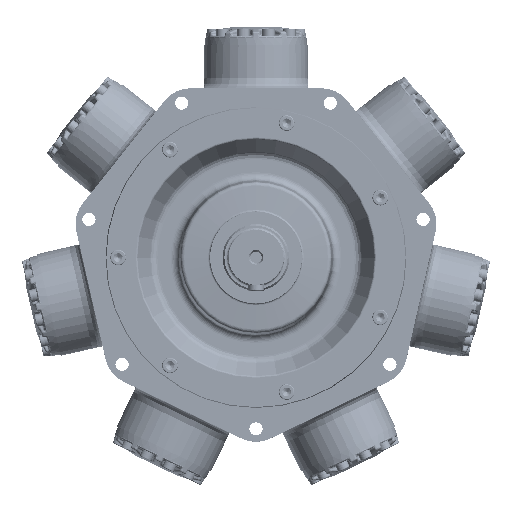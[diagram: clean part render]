
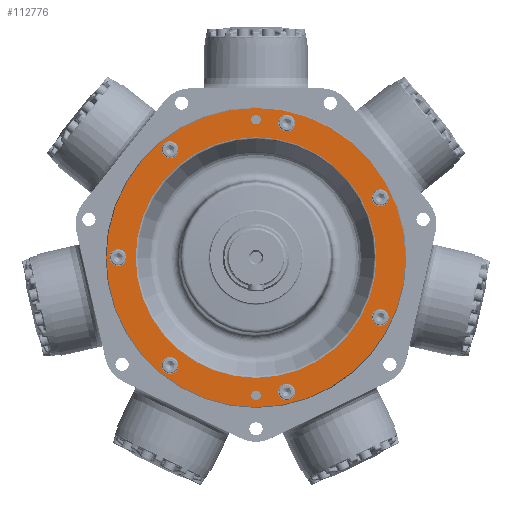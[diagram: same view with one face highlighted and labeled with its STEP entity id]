
A CAD part, top view. The second image highlights one B-rep face of the part: STEP entity #112776.
In plain terms, the highlighted planar face has unit normal (0, 0, 1).
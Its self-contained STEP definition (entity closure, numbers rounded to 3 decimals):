
#931=FACE_BOUND('',#32256,.T.);
#932=FACE_BOUND('',#32257,.T.);
#933=FACE_BOUND('',#32258,.T.);
#934=FACE_BOUND('',#32259,.T.);
#935=FACE_BOUND('',#32260,.T.);
#936=FACE_BOUND('',#32261,.T.);
#937=FACE_BOUND('',#32262,.T.);
#938=FACE_BOUND('',#32263,.T.);
#939=FACE_BOUND('',#32264,.T.);
#940=FACE_BOUND('',#32265,.T.);
#16122=PLANE('',#120756);
#19773=CIRCLE('',#120729,7.176);
#19775=CIRCLE('',#120732,7.176);
#19777=CIRCLE('',#120735,12.7);
#19779=CIRCLE('',#120738,12.7);
#19780=CIRCLE('',#120740,12.7);
#19782=CIRCLE('',#120743,12.7);
#19783=CIRCLE('',#120745,12.7);
#19784=CIRCLE('',#120747,12.7);
#19786=CIRCLE('',#120750,12.7);
#19787=CIRCLE('',#120752,227.279);
#19790=CIRCLE('',#120757,182.808);
#25352=FACE_OUTER_BOUND('',#32255,.T.);
#32255=EDGE_LOOP('',(#87826));
#32256=EDGE_LOOP('',(#87827));
#32257=EDGE_LOOP('',(#87828));
#32258=EDGE_LOOP('',(#87829));
#32259=EDGE_LOOP('',(#87830));
#32260=EDGE_LOOP('',(#87831));
#32261=EDGE_LOOP('',(#87832));
#32262=EDGE_LOOP('',(#87833));
#32263=EDGE_LOOP('',(#87834));
#32264=EDGE_LOOP('',(#87835));
#32265=EDGE_LOOP('',(#87836));
#46651=VERTEX_POINT('',#264257);
#46653=VERTEX_POINT('',#264263);
#46655=VERTEX_POINT('',#264269);
#46657=VERTEX_POINT('',#264275);
#46658=VERTEX_POINT('',#264279);
#46660=VERTEX_POINT('',#264285);
#46661=VERTEX_POINT('',#264289);
#46662=VERTEX_POINT('',#264293);
#46664=VERTEX_POINT('',#264299);
#46665=VERTEX_POINT('',#264303);
#46668=VERTEX_POINT('',#264313);
#60910=EDGE_CURVE('',#46651,#46651,#19773,.T.);
#60913=EDGE_CURVE('',#46653,#46653,#19775,.T.);
#60917=EDGE_CURVE('',#46655,#46655,#19777,.T.);
#60920=EDGE_CURVE('',#46657,#46657,#19779,.T.);
#60922=EDGE_CURVE('',#46658,#46658,#19780,.T.);
#60925=EDGE_CURVE('',#46660,#46660,#19782,.T.);
#60927=EDGE_CURVE('',#46661,#46661,#19783,.T.);
#60929=EDGE_CURVE('',#46662,#46662,#19784,.T.);
#60932=EDGE_CURVE('',#46664,#46664,#19786,.T.);
#60933=EDGE_CURVE('',#46665,#46665,#19787,.T.);
#60938=EDGE_CURVE('',#46668,#46668,#19790,.T.);
#87826=ORIENTED_EDGE('',*,*,#60933,.F.);
#87827=ORIENTED_EDGE('',*,*,#60910,.T.);
#87828=ORIENTED_EDGE('',*,*,#60913,.T.);
#87829=ORIENTED_EDGE('',*,*,#60917,.T.);
#87830=ORIENTED_EDGE('',*,*,#60920,.T.);
#87831=ORIENTED_EDGE('',*,*,#60922,.T.);
#87832=ORIENTED_EDGE('',*,*,#60925,.T.);
#87833=ORIENTED_EDGE('',*,*,#60927,.T.);
#87834=ORIENTED_EDGE('',*,*,#60929,.T.);
#87835=ORIENTED_EDGE('',*,*,#60932,.T.);
#87836=ORIENTED_EDGE('',*,*,#60938,.F.);
#112776=ADVANCED_FACE('',(#25352,#931,#932,#933,#934,#935,#936,#937,#938,
#939,#940),#16122,.T.);
#120729=AXIS2_PLACEMENT_3D('',#264258,#138053,#138054);
#120732=AXIS2_PLACEMENT_3D('',#264264,#138060,#138061);
#120735=AXIS2_PLACEMENT_3D('',#264271,#138068,#138069);
#120738=AXIS2_PLACEMENT_3D('',#264277,#138075,#138076);
#120740=AXIS2_PLACEMENT_3D('',#264281,#138080,#138081);
#120743=AXIS2_PLACEMENT_3D('',#264287,#138087,#138088);
#120745=AXIS2_PLACEMENT_3D('',#264291,#138092,#138093);
#120747=AXIS2_PLACEMENT_3D('',#264295,#138097,#138098);
#120750=AXIS2_PLACEMENT_3D('',#264301,#138104,#138105);
#120752=AXIS2_PLACEMENT_3D('',#264304,#138108,#138109);
#120756=AXIS2_PLACEMENT_3D('',#264312,#138118,#138119);
#120757=AXIS2_PLACEMENT_3D('',#264314,#138120,#138121);
#138053=DIRECTION('center_axis',(0.,0.,
-1.));
#138054=DIRECTION('ref_axis',(1.,0.,0.));
#138060=DIRECTION('center_axis',(0.,0.,
-1.));
#138061=DIRECTION('ref_axis',(1.,0.,0.));
#138068=DIRECTION('center_axis',(0.,0.,
-1.));
#138069=DIRECTION('ref_axis',(-0.623,0.782,0.));
#138075=DIRECTION('center_axis',(0.,0.,
-1.));
#138076=DIRECTION('ref_axis',(0.223,0.975,0.));
#138080=DIRECTION('center_axis',(0.,0.,
-1.));
#138081=DIRECTION('ref_axis',(0.901,0.434,0.));
#138087=DIRECTION('center_axis',(0.,0.,
-1.));
#138088=DIRECTION('ref_axis',(0.901,-0.434,0.));
#138092=DIRECTION('center_axis',(0.,0.,
-1.));
#138093=DIRECTION('ref_axis',(0.223,-0.975,0.));
#138097=DIRECTION('center_axis',(0.,0.,
-1.));
#138098=DIRECTION('ref_axis',(-0.623,-0.782,0.));
#138104=DIRECTION('center_axis',(0.,0.,
-1.));
#138105=DIRECTION('ref_axis',(-1.,0.,0.));
#138108=DIRECTION('center_axis',(0.,0.,
-1.));
#138109=DIRECTION('ref_axis',(0.,1.,0.));
#138118=DIRECTION('center_axis',(0.,0.,
1.));
#138119=DIRECTION('ref_axis',(0.,1.,0.));
#138120=DIRECTION('center_axis',(0.,0.,
1.));
#138121=DIRECTION('ref_axis',(1.,0.,0.));
#264257=CARTESIAN_POINT('',(-7.175,209.55,123.104));
#264258=CARTESIAN_POINT('Origin',(0.,209.55,123.104));
#264263=CARTESIAN_POINT('',(-7.176,-209.55,123.104));
#264264=CARTESIAN_POINT('Origin',(0.,-209.55,123.104));
#264269=CARTESIAN_POINT('',(-122.734,153.904,123.104));
#264271=CARTESIAN_POINT('Origin',(-130.652,163.833,123.104));
#264275=CARTESIAN_POINT('',(43.803,191.915,123.104));
#264277=CARTESIAN_POINT('Origin',(46.629,204.296,123.104));
#264279=CARTESIAN_POINT('',(177.356,85.41,123.104));
#264281=CARTESIAN_POINT('Origin',(188.798,90.92,123.104));
#264285=CARTESIAN_POINT('',(177.356,-85.41,123.104));
#264287=CARTESIAN_POINT('Origin',(188.798,-90.92,123.104));
#264289=CARTESIAN_POINT('',(43.803,-191.915,123.104));
#264291=CARTESIAN_POINT('Origin',(46.629,-204.296,123.104));
#264293=CARTESIAN_POINT('',(-122.734,-153.904,123.104));
#264295=CARTESIAN_POINT('Origin',(-130.652,-163.833,123.104));
#264299=CARTESIAN_POINT('',(-196.85,0.,123.104));
#264301=CARTESIAN_POINT('Origin',(-209.55,0.,123.104));
#264303=CARTESIAN_POINT('',(0.,-227.279,123.104));
#264304=CARTESIAN_POINT('Origin',(0.,0.,
123.104));
#264312=CARTESIAN_POINT('Origin',(-206.375,0.,123.104));
#264313=CARTESIAN_POINT('',(0.,-182.808,123.104));
#264314=CARTESIAN_POINT('Origin',(0.,0.,
123.104));
